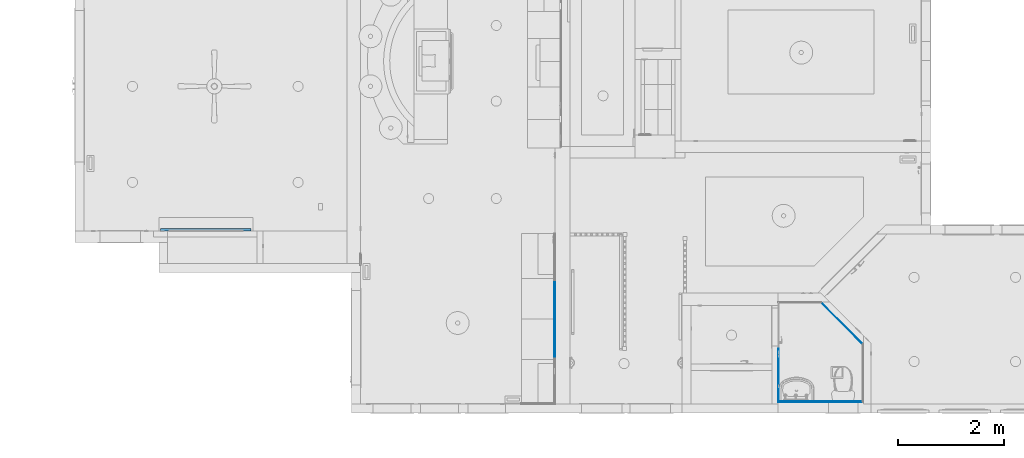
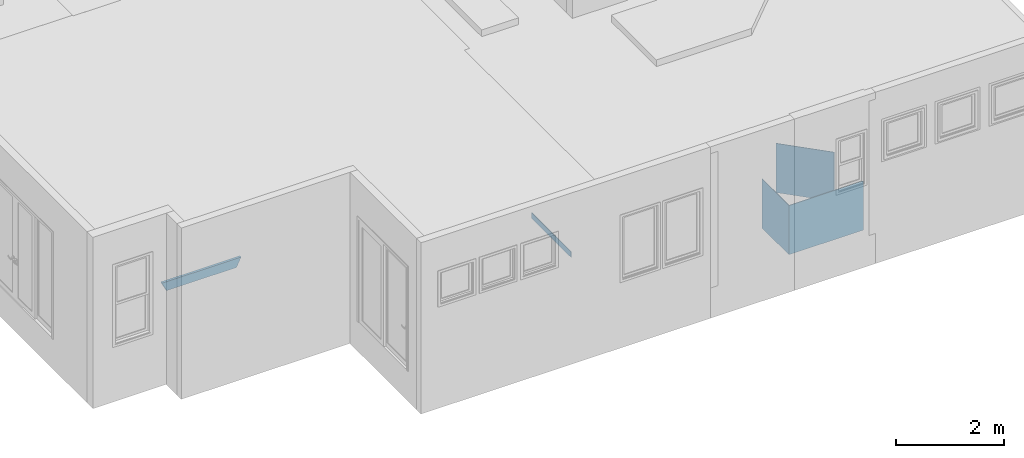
# One storey, part 1 of 103: 5 beams.
"""IFC2X3 building model written with IfcOpenShell, lengths in inches."""

from ifc_helpers import new_model, entity, si_unit, converted_unit, derived_unit, money_unit, direction, frame, origin_with_axes, place, context, subcontext, project, spatial, faceted_brep, material, type_object, element, save


model = new_model("IFC2X3")

# Units and contexts
model_context = context("Model", 3, precision=0.00039370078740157, world=origin_with_axes(), true_north=direction((0.0, 1.0)))
plan_context = context("Plan", 3, precision=0.00039370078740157, world=origin_with_axes(), true_north=direction((0.0, 1.0)))
body_context = subcontext(model_context, "Body", "Model", "MODEL_VIEW")
ifc_project = project(units=[converted_unit("LENGTHUNIT", "INCH", entity("IfcPositiveLengthMeasure", 0.0254), si_unit("LENGTHUNIT", "METRE"), dimensions=[1, 0, 0, 0, 0, 0, 0]), converted_unit("AREAUNIT", "SQUARE_FOOT", entity("IfcPositiveLengthMeasure", 0.09290304), si_unit("AREAUNIT", "SQUARE_METRE"), dimensions=[2, 0, 0, 0, 0, 0, 0]), si_unit("PLANEANGLEUNIT", "RADIAN"), si_unit("SOLIDANGLEUNIT", "STERADIAN"), money_unit("USD"), converted_unit("TIMEUNIT", "Year", entity("IfcTimeMeasure", 31557600.0), si_unit("TIMEUNIT", "SECOND"), dimensions=[0, 0, 1, 0, 0, 0, 0]), si_unit("MASSUNIT", "GRAM", prefix="KILO"), si_unit("THERMODYNAMICTEMPERATUREUNIT", "DEGREE_CELSIUS"), si_unit("LUMINOUSINTENSITYUNIT", "LUMEN"), si_unit("ENERGYUNIT", "JOULE", prefix="MEGA"), derived_unit("SPECIFICHEATCAPACITYUNIT", [(si_unit("ENERGYUNIT", "JOULE"), 1), (si_unit("MASSUNIT", "GRAM", prefix="KILO"), -1), (si_unit("THERMODYNAMICTEMPERATUREUNIT", "KELVIN"), -1)])], contexts=[model_context, plan_context])

# Site, building, storey
site_placement = place(None, origin_with_axes())
site = spatial("IfcSite", under=ifc_project, at=site_placement, Name="Site", CompositionType="ELEMENT")
building_placement = place(site_placement, origin_with_axes())
building = spatial("IfcBuilding", under=site, at=building_placement, Name="Building", CompositionType="ELEMENT")
storey_placement = place(building_placement, frame((0.0, 0.0, 127.9999999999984), z_axis=(0.0, 0.0, 1.0), x_axis=(1.0, 0.0, 0.0)))
storey = spatial("IfcBuildingStorey", under=building, at=storey_placement, Name="Second Floor", CompositionType="ELEMENT", Elevation=128.0)

# Beams
ifc_material_1 = material(Name="Generic - Structural")
beam_type_1 = type_object("IfcBeamType", Name="Generic - Structural 2\" x 8\"", PredefinedType="BEAM")
beam_1_placement = place(storey_placement, frame((-78.23849129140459, 134.499999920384, 49.7512757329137), z_axis=(0.0, 0.0, 1.0), x_axis=(0.0, 1.0, 0.0)))
element("IfcBeam", 1, at=beam_1_placement, inside=storey, type_object=beam_type_1, material=ifc_material_1, Name="BMR - 113", context=body_context, shape_type="Brep", body=[
    faceted_brep([(0.0, 0.0, 0.0), (0.0, 58.99999999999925, 0.0), (1.999999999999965, 58.99999999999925, 0.0), (1.999999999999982, 0.0, 0.0), (0.0, -4.000000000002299, 8.000045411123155), (0.0, 62.99999999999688, 8.000045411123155), (1.999999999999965, 62.99999999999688, 8.000045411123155), (1.999999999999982, -4.000000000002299, 8.000045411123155)], [[[0, 1, 2, 3]], [[4, 5, 1, 0]], [[2, 1, 5, 6]], [[3, 2, 6, 7]], [[4, 0, 3, 7]], [[7, 6, 5, 4]]]),
])
ifc_material_2 = material(Name="Tile - Walls")
beam_type_2 = type_object("IfcBeamType", Name="Tile - Walls 1/2\" x 5\"", PredefinedType="BEAM")
beam_2_placement = place(storey_placement, frame((150.500190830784, 40.00070408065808, 35.99999999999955), z_axis=(0.0, 0.0, 1.0), x_axis=(0.9999999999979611, 2.019381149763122e-06, 0.0)))
element("IfcBeam", 2, at=beam_2_placement, inside=storey, type_object=beam_type_2, material=ifc_material_2, Name="BMR - 041", context=body_context, shape_type="Brep", body=[
    faceted_brep([(0.0, 0.0, 0.0), (-0.5, 0.0, 0.0), (-0.5000000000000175, 57.99999999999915, 0.0), (0.0, 57.99999999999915, 0.0), (0.0, 0.0, 4.99999999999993), (-0.5, 0.0, 4.99999999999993), (-0.5000000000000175, 57.99999999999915, 4.99999999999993), (0.0, 57.99999999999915, 4.99999999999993)], [[[0, 1, 2, 3]], [[4, 5, 1, 0]], [[1, 5, 6, 2]], [[7, 3, 2, 6]], [[4, 0, 3, 7]], [[5, 4, 7, 6]]]),
])
beam_type_3 = type_object("IfcBeamType", Name="Tile - Walls 1/2\" x 44\"", PredefinedType="BEAM")
beam_3_placement = place(storey_placement, frame((315.499999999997, 7.999999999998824, 0.0), z_axis=(0.0, 0.0, 1.0), x_axis=(0.0, -1.0, 0.0)))
element("IfcBeam", 3, at=beam_3_placement, inside=storey, type_object=beam_type_3, material=ifc_material_2, Name="BMR - 113", context=body_context, shape_type="Brep", body=[
    faceted_brep([(0.0, 0.0, 0.0), (-0.5000000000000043, 0.5000000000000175, 0.0), (-0.5, 62.49999999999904, 0.0), (0.0, 62.99999999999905, 0.0), (0.0, 0.0, 43.99999999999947), (-0.5000000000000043, 0.5000000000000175, 43.99999999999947), (-0.5, 62.49999999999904, 43.99999999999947), (0.0, 62.99999999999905, 43.99999999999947)], [[[0, 1, 2, 3]], [[4, 5, 1, 0]], [[1, 5, 6, 2]], [[7, 3, 2, 6]], [[4, 0, 3, 7]], [[5, 4, 7, 6]]]),
])
beam_4_placement = place(storey_placement, frame((315.499999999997, 47.49999999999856, 0.0), z_axis=(0.0, 0.0, 1.0), x_axis=(-1.0, 0.0, 0.0)))
element("IfcBeam", 4, at=beam_4_placement, inside=storey, type_object=beam_type_3, material=ifc_material_2, Name="BMR - 113", context=body_context, shape_type="Brep", body=[
    faceted_brep([(0.0, 0.0, 0.0), (-0.5000000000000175, 0.0, 0.0), (-0.5000000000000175, 38.99999999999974, 0.0), (0.0, 39.49999999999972, 0.0), (0.0, 0.0, 43.99999999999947), (-0.5000000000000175, 0.0, 43.99999999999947), (-0.5000000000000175, 38.99999999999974, 43.99999999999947), (0.0, 39.49999999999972, 43.99999999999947)], [[[0, 1, 2, 3]], [[4, 5, 1, 0]], [[1, 5, 6, 2]], [[7, 3, 2, 6]], [[4, 0, 3, 7]], [[5, 4, 7, 6]]]),
])
beam_5_placement = place(storey_placement, frame((378.499999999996, 50.63603896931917, 0.0), z_axis=(0.0, 0.0, 1.0), x_axis=(0.7071067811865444, 0.7071067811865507, 0.0)))
element("IfcBeam", 5, at=beam_5_placement, inside=storey, type_object=beam_type_3, material=ifc_material_2, Name="BMR - 113", context=body_context, shape_type="Brep", body=[
    faceted_brep([(0.0, 0.0, 0.0), (-0.4999999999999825, 0.2071067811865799, 0.0), (-0.4999999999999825, 44.14823227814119, 0.0), (0.0, 44.35533905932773, 0.0), (0.0, 0.0, 43.99999999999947), (-0.4999999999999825, 0.2071067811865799, 43.99999999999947), (-0.4999999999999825, 44.14823227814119, 43.99999999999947), (0.0, 44.35533905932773, 43.99999999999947)], [[[0, 1, 2, 3]], [[4, 5, 1, 0]], [[1, 5, 6, 2]], [[7, 3, 2, 6]], [[4, 0, 3, 7]], [[5, 4, 7, 6]]]),
])

save(model, "model.ifc")
